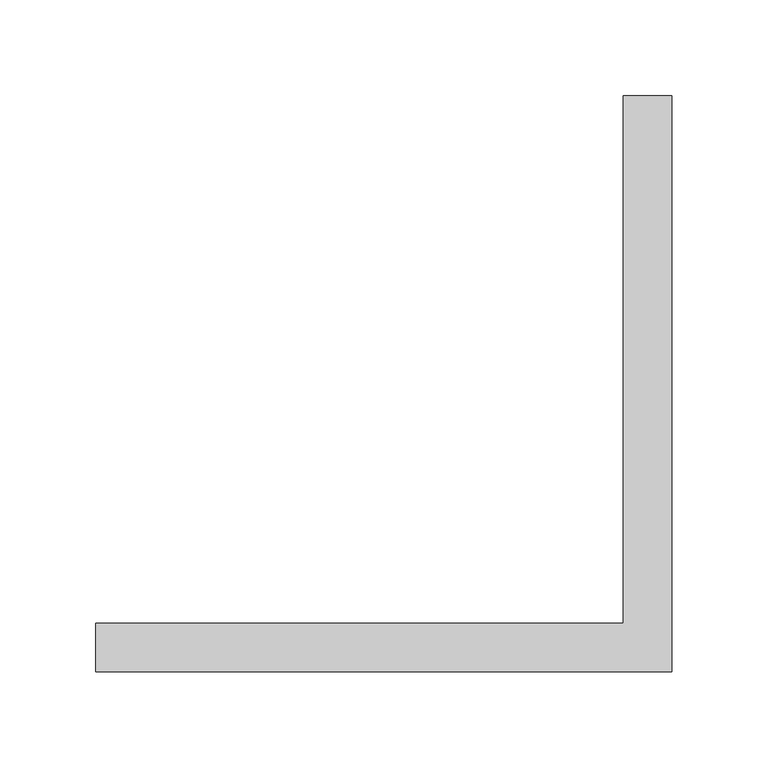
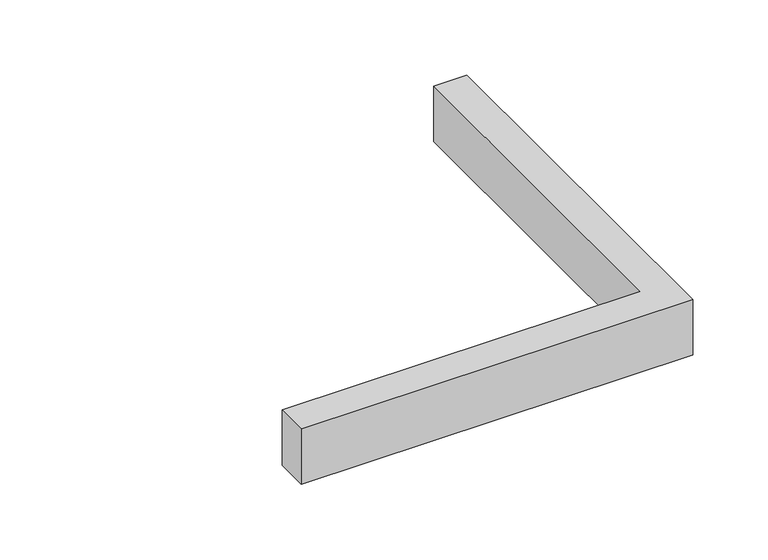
"""IFC4 building model written with IfcOpenShell, lengths in millimetres: cable carrier fitting geometry, BAKS_LD_BEND_2 x Angle connector_LKD : 2 x LKDP_H45."""

from ifc_helpers import new_model, si_unit, frame, origin, place, context, project, spatial, polyline, outline, extrude, source, transform, mapped, element, save


def cable_carrier_fitting_6104b6d9(model_context):
    return source(origin(), model_context, "Body", "SweptSolid", [
        extrude(outline(polyline([(-150.0, -150.0), (-150.0, -124.6), (124.6, -124.6), (124.6, 150.0), (150.0, 150.0), (150.0, -150.0), (-150.0, -150.0)])), frame((0.0, 0.0, -22.5), z_axis=(0.0, 0.0, 1.0), x_axis=(1.0, 0.0, 0.0)), (0.0, 0.0, 1.0), 45.0),
    ])


if __name__ == "__main__":
    model = new_model("IFC4")
    model_context = context("Model", 3, world=origin())
    ifc_project = project(units=[si_unit("LENGTHUNIT", "METRE", prefix="MILLI")], contexts=[model_context])
    site = spatial("IfcSite", under=ifc_project)
    building = spatial("IfcBuilding", under=site)
    placement = place(None, origin())
    cable_carrier_fitting_shape = cable_carrier_fitting_6104b6d9(model_context)
    element("IfcCableCarrierFitting", 1, ObjectType="BAKS_LD_BEND_2 x Angle connector_LKD : 2 x LKDP_H45", at=placement, inside=building, context=model_context, shape_type="MappedRepresentation", body=[
        mapped(cable_carrier_fitting_shape, transform((0.0, 0.0, 0.0), x_axis=(1.0, 0.0, 0.0), y_axis=(0.0, 1.0, 0.0), z_axis=(0.0, 0.0, 1.0))),
    ])
    save(model, "model.ifc")
